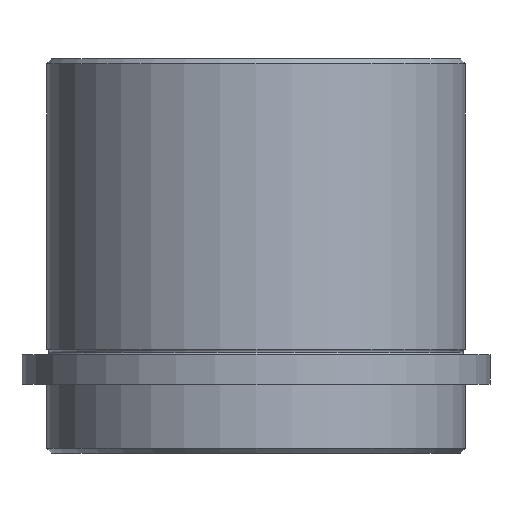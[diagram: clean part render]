
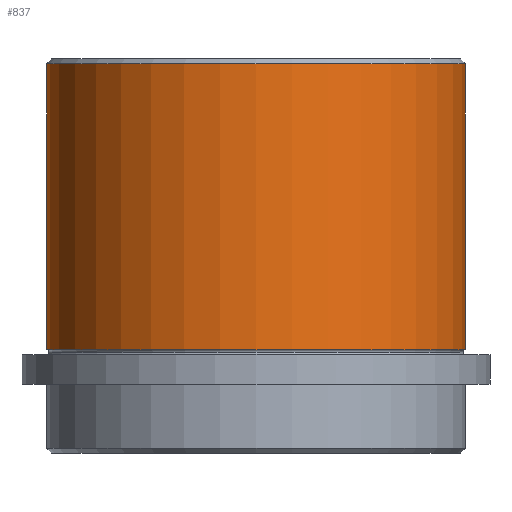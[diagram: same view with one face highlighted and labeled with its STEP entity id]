
A CAD part, front view. The second image highlights one B-rep face of the part: STEP entity #837.
In plain terms, the highlighted cylindrical face has radius 42.5 mm (diameter 85 mm), a partial arc.
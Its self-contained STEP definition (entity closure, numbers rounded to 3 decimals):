
#4 = AXIS2_PLACEMENT_3D ( 'NONE', #167, #292, #233 ) ;
#10 = LINE ( 'NONE', #288, #880 ) ;
#100 = CARTESIAN_POINT ( 'NONE',  ( -42.5, 0., -1. ) ) ;
#101 = CARTESIAN_POINT ( 'NONE',  ( -42.5, 0., -59. ) ) ;
#102 = AXIS2_PLACEMENT_3D ( 'NONE', #337, #332, #357 ) ;
#162 = EDGE_LOOP ( 'NONE', ( #805, #794, #792, #802 ) ) ;
#167 = CARTESIAN_POINT ( 'NONE',  ( 0., 0., 0. ) ) ;
#233 = DIRECTION ( 'NONE',  ( 1., 0., 0. ) ) ;
#288 = CARTESIAN_POINT ( 'NONE',  ( -42.5, 0., 0. ) ) ;
#292 = DIRECTION ( 'NONE',  ( 0., 0., 1. ) ) ;
#316 = EDGE_CURVE ( 'NONE', #823, #814, #10, .T. ) ;
#317 = CYLINDRICAL_SURFACE ( 'NONE', #4, 42.5 ) ;
#332 = DIRECTION ( 'NONE',  ( 0., 0., 1. ) ) ;
#337 = CARTESIAN_POINT ( 'NONE',  ( 0., 0., -59. ) ) ;
#355 = CARTESIAN_POINT ( 'NONE',  ( 42.5, 0., -1. ) ) ;
#357 = DIRECTION ( 'NONE',  ( 1., 0., 0. ) ) ;
#363 = EDGE_CURVE ( 'NONE', #823, #704, #668, .T. ) ;
#375 = AXIS2_PLACEMENT_3D ( 'NONE', #539, #535, #457 ) ;
#421 = EDGE_CURVE ( 'NONE', #859, #814, #469, .T. ) ;
#457 = DIRECTION ( 'NONE',  ( -1., 0., 0. ) ) ;
#469 = CIRCLE ( 'NONE', #375, 42.5 ) ;
#484 = FACE_OUTER_BOUND ( 'NONE', #162, .T. ) ;
#506 = DIRECTION ( 'NONE',  ( 0., 0., 1. ) ) ;
#514 = VECTOR ( 'NONE', #523, 1000. ) ;
#523 = DIRECTION ( 'NONE',  ( 0., 0., 1. ) ) ;
#529 = EDGE_CURVE ( 'NONE', #704, #859, #533, .T. ) ;
#533 = LINE ( 'NONE', #658, #514 ) ;
#535 = DIRECTION ( 'NONE',  ( 0., 0., -1. ) ) ;
#539 = CARTESIAN_POINT ( 'NONE',  ( 0., 0., -1. ) ) ;
#658 = CARTESIAN_POINT ( 'NONE',  ( 42.5, 0., 0. ) ) ;
#668 = CIRCLE ( 'NONE', #102, 42.5 ) ;
#698 = CARTESIAN_POINT ( 'NONE',  ( 42.5, 0., -59. ) ) ;
#704 = VERTEX_POINT ( 'NONE', #698 ) ;
#792 = ORIENTED_EDGE ( 'NONE', *, *, #529, .T. ) ;
#794 = ORIENTED_EDGE ( 'NONE', *, *, #363, .T. ) ;
#802 = ORIENTED_EDGE ( 'NONE', *, *, #421, .T. ) ;
#805 = ORIENTED_EDGE ( 'NONE', *, *, #316, .F. ) ;
#814 = VERTEX_POINT ( 'NONE', #100 ) ;
#823 = VERTEX_POINT ( 'NONE', #101 ) ;
#837 = ADVANCED_FACE ( 'NONE', ( #484 ), #317, .T. ) ;
#859 = VERTEX_POINT ( 'NONE', #355 ) ;
#880 = VECTOR ( 'NONE', #506, 1000. ) ;
